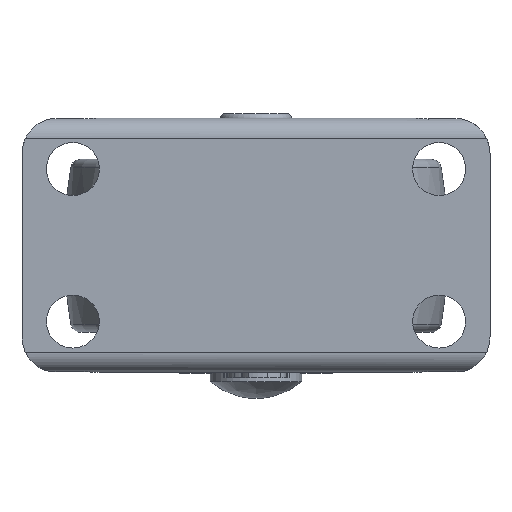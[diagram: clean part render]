
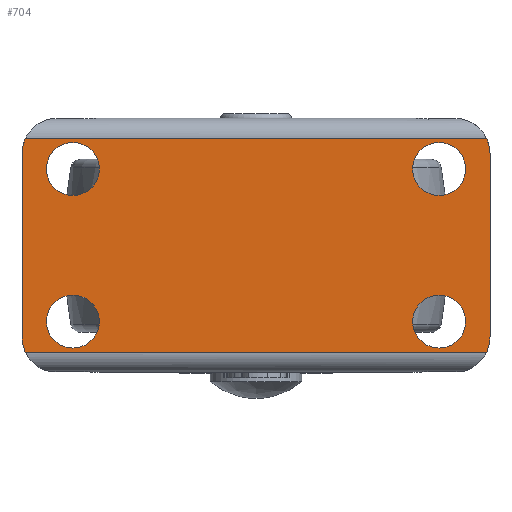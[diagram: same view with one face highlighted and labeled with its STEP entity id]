
A CAD part, top view. The second image highlights one B-rep face of the part: STEP entity #704.
In plain terms, the highlighted planar face has unit normal (0, 0, 1).
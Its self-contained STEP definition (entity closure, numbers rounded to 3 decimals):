
#238=PLANE('',#5150);
#704=ADVANCED_FACE('',(#1864,#1865,#1866,#1867,#1868),#238,.F.);
#1136=LINE('',#7668,#1557);
#1140=LINE('',#7713,#1561);
#1153=LINE('',#7776,#1574);
#1154=LINE('',#7777,#1575);
#1557=VECTOR('',#5859,1.);
#1561=VECTOR('',#5877,1.);
#1574=VECTOR('',#5924,1.);
#1575=VECTOR('',#5925,1.);
#1864=FACE_BOUND('',#2000,.T.);
#1865=FACE_BOUND('',#2001,.T.);
#1866=FACE_BOUND('',#2002,.T.);
#1867=FACE_BOUND('',#2003,.T.);
#1868=FACE_BOUND('',#2004,.T.);
#2000=EDGE_LOOP('',(#2686,#2687,#2688,#2689,#2690,#2691,#2692,#2693));
#2001=EDGE_LOOP('',(#2694));
#2002=EDGE_LOOP('',(#2695));
#2003=EDGE_LOOP('',(#2696));
#2004=EDGE_LOOP('',(#2697));
#2686=ORIENTED_EDGE('',*,*,#4423,.F.);
#2687=ORIENTED_EDGE('',*,*,#4449,.T.);
#2688=ORIENTED_EDGE('',*,*,#4418,.F.);
#2689=ORIENTED_EDGE('',*,*,#4415,.F.);
#2690=ORIENTED_EDGE('',*,*,#4413,.F.);
#2691=ORIENTED_EDGE('',*,*,#4450,.T.);
#2692=ORIENTED_EDGE('',*,*,#4434,.F.);
#2693=ORIENTED_EDGE('',*,*,#4425,.F.);
#2694=ORIENTED_EDGE('',*,*,#4433,.F.);
#2695=ORIENTED_EDGE('',*,*,#4431,.F.);
#2696=ORIENTED_EDGE('',*,*,#4429,.F.);
#2697=ORIENTED_EDGE('',*,*,#4438,.F.);
#3888=VERTEX_POINT('',#7663);
#3889=VERTEX_POINT('',#7665);
#3890=VERTEX_POINT('',#7669);
#3892=VERTEX_POINT('',#7675);
#3896=VERTEX_POINT('',#7708);
#3897=VERTEX_POINT('',#7710);
#3898=VERTEX_POINT('',#7714);
#3901=VERTEX_POINT('',#7722);
#3903=VERTEX_POINT('',#7727);
#3905=VERTEX_POINT('',#7732);
#3906=VERTEX_POINT('',#7735);
#3909=VERTEX_POINT('',#7755);
#4413=EDGE_CURVE('',#3888,#3889,#4926,.T.);
#4415=EDGE_CURVE('',#3889,#3890,#1136,.T.);
#4418=EDGE_CURVE('',#3890,#3892,#4927,.T.);
#4423=EDGE_CURVE('',#3896,#3897,#4930,.T.);
#4425=EDGE_CURVE('',#3897,#3898,#1140,.T.);
#4429=EDGE_CURVE('',#3901,#3901,#4932,.T.);
#4431=EDGE_CURVE('',#3903,#3903,#4934,.T.);
#4433=EDGE_CURVE('',#3905,#3905,#4936,.T.);
#4434=EDGE_CURVE('',#3898,#3906,#4937,.T.);
#4438=EDGE_CURVE('',#3909,#3909,#4940,.T.);
#4449=EDGE_CURVE('',#3896,#3892,#1153,.T.);
#4450=EDGE_CURVE('',#3888,#3906,#1154,.T.);
#4926=CIRCLE('',#5124,3.5);
#4927=CIRCLE('',#5127,3.5);
#4930=CIRCLE('',#5131,3.5);
#4932=CIRCLE('',#5135,2.6);
#4934=CIRCLE('',#5138,2.6);
#4936=CIRCLE('',#5141,2.6);
#4937=CIRCLE('',#5143,3.5);
#4940=CIRCLE('',#5147,2.6);
#5124=AXIS2_PLACEMENT_3D('',#7664,#5854,#5855);
#5127=AXIS2_PLACEMENT_3D('',#7674,#5864,#5865);
#5131=AXIS2_PLACEMENT_3D('',#7709,#5872,#5873);
#5135=AXIS2_PLACEMENT_3D('',#7721,#5884,#5885);
#5138=AXIS2_PLACEMENT_3D('',#7726,#5890,#5891);
#5141=AXIS2_PLACEMENT_3D('',#7731,#5896,#5897);
#5143=AXIS2_PLACEMENT_3D('',#7734,#5900,#5901);
#5147=AXIS2_PLACEMENT_3D('',#7754,#5908,#5909);
#5150=AXIS2_PLACEMENT_3D('',#7778,#5926,#5927);
#5854=DIRECTION('',(0.,0.,-1.));
#5855=DIRECTION('',(1.,0.,0.));
#5859=DIRECTION('',(0.,-1.,0.));
#5864=DIRECTION('',(0.,0.,-1.));
#5865=DIRECTION('',(1.,0.,0.));
#5872=DIRECTION('',(0.,0.,-1.));
#5873=DIRECTION('',(1.,0.,0.));
#5877=DIRECTION('',(0.,1.,0.));
#5884=DIRECTION('',(0.,0.,1.));
#5885=DIRECTION('',(1.,0.,0.));
#5890=DIRECTION('',(0.,0.,1.));
#5891=DIRECTION('',(1.,0.,0.));
#5896=DIRECTION('',(0.,0.,1.));
#5897=DIRECTION('',(1.,0.,0.));
#5900=DIRECTION('',(0.,0.,-1.));
#5901=DIRECTION('',(1.,0.,0.));
#5908=DIRECTION('',(0.,0.,1.));
#5909=DIRECTION('',(1.,0.,0.));
#5924=DIRECTION('',(1.,0.,0.));
#5925=DIRECTION('',(-1.,0.,0.));
#5926=DIRECTION('',(0.,0.,-1.));
#5927=DIRECTION('',(1.,0.,0.));
#7663=CARTESIAN_POINT('',(22.662,10.5,0.));
#7664=CARTESIAN_POINT('',(19.5,9.,0.));
#7665=CARTESIAN_POINT('',(23.,9.,0.));
#7668=CARTESIAN_POINT('',(23.,9.,0.));
#7669=CARTESIAN_POINT('',(23.,-9.,0.));
#7674=CARTESIAN_POINT('',(19.5,-9.,0.));
#7675=CARTESIAN_POINT('',(22.662,-10.5,0.));
#7708=CARTESIAN_POINT('',(-22.662,-10.5,0.));
#7709=CARTESIAN_POINT('',(-19.5,-9.,0.));
#7710=CARTESIAN_POINT('',(-23.,-9.,0.));
#7713=CARTESIAN_POINT('',(-23.,-9.,0.));
#7714=CARTESIAN_POINT('',(-23.,9.,0.));
#7721=CARTESIAN_POINT('',(-18.,7.5,0.));
#7722=CARTESIAN_POINT('',(-15.4,7.5,0.));
#7726=CARTESIAN_POINT('',(-18.,-7.5,0.));
#7727=CARTESIAN_POINT('',(-15.4,-7.5,0.));
#7731=CARTESIAN_POINT('',(18.,-7.5,0.));
#7732=CARTESIAN_POINT('',(20.6,-7.5,0.));
#7734=CARTESIAN_POINT('',(-19.5,9.,0.));
#7735=CARTESIAN_POINT('',(-22.662,10.5,0.));
#7754=CARTESIAN_POINT('',(18.,7.5,0.));
#7755=CARTESIAN_POINT('',(20.6,7.5,0.));
#7776=CARTESIAN_POINT('',(0.,-10.5,0.));
#7777=CARTESIAN_POINT('',(0.,10.5,0.));
#7778=CARTESIAN_POINT('',(19.5,9.,0.));
